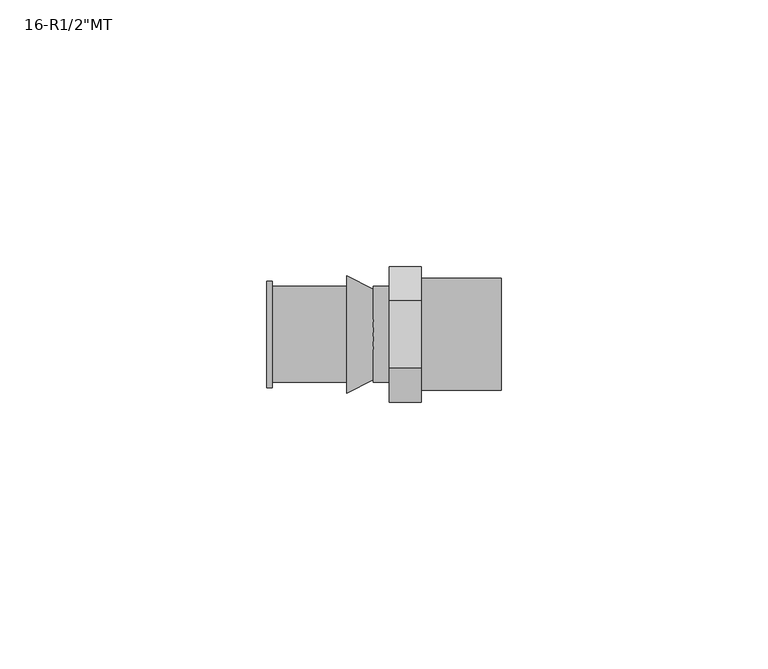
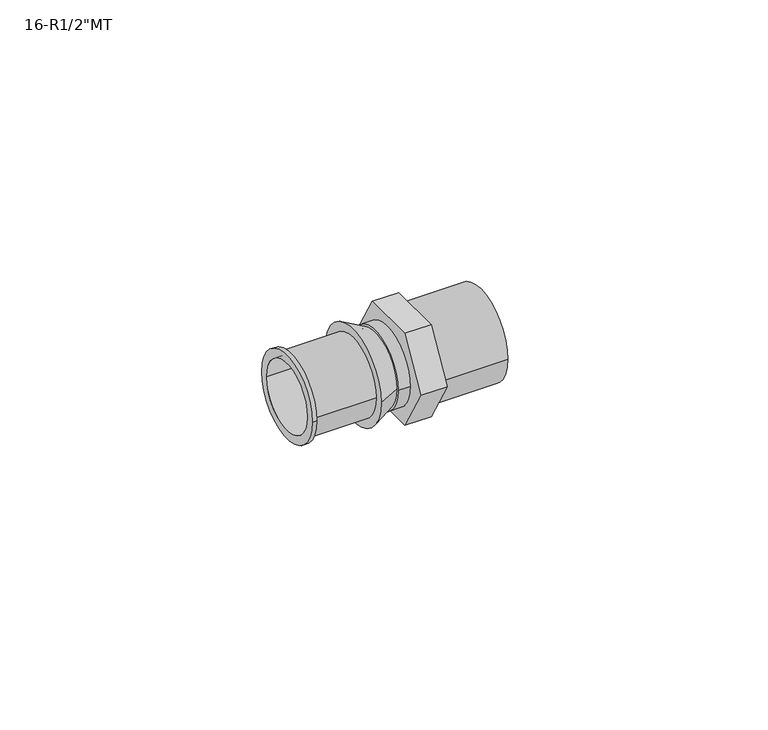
"""IFC4 building model written with IfcOpenShell, lengths in millimetres: pipe fitting geometry."""

from ifc_helpers import new_model, si_unit, point, frame, origin, origin_2d, place, context, project, spatial, polyline, circle_curve, trimmed, segment, composite_curve, outline, extrude, source, transform, mapped, element, save
from ifc_brep_helpers import plane_surface, cylinder_surface, revolved_surface, advanced_brep


def pipe_fitting_80dcb228(model_context):
    return source(origin(), model_context, "Body", "SolidModel", [
        advanced_brep(
        [(-3.0, -12.7017059, 0.0), (-3.0, -6.350853, 11.0), (-3.0, 6.350853, 11.0), (-3.0, 12.7017059, 0.0), (-3.0, 6.350853, -11.0), (-3.0, -6.350853, -11.0), (3.0, -12.7017059, 0.0), (3.0, -6.350853, -11.0), (3.0, 6.350853, -11.0), (3.0, 12.7017059, 0.0), (3.0, 6.350853, 11.0), (3.0, -6.350853, 11.0), (3.0, -10.5, 0.0), (3.0, 10.5, 0.0), (3.0, -7.5, 0.0), (3.0, 7.5, 0.0), (18.0, -10.5, 0.0), (18.0, 10.5, 0.0), (18.0, -7.5, 0.0), (18.0, 7.5, 0.0)],
        [
            (0, 1),
            (1, 2),
            (2, 3),
            (3, 4),
            (4, 5),
            (5, 0),
            (6, 7),
            (7, 8),
            (8, 9),
            (9, 10),
            (10, 11),
            (11, 6),
            (12, 13, circle_curve(frame((3.0, 0.0, 0.0), z_axis=(-1.0, 0.0, 0.0), x_axis=(0.0, 1.0, 0.0)), 10.5)),
            (13, 12, circle_curve(frame((3.0, 0.0, 0.0), z_axis=(-1.0, 0.0, 0.0), x_axis=(0.0, 1.0, 0.0)), 10.5)),
            (14, 15, circle_curve(frame((3.0, 0.0, 0.0), z_axis=(1.0, 0.0, 0.0), x_axis=(0.0, 1.0, 0.0)), 7.5)),
            (15, 14, circle_curve(frame((3.0, 0.0, 0.0), z_axis=(1.0, 0.0, 0.0), x_axis=(0.0, 1.0, 0.0)), 7.5)),
            (0, 6),
            (11, 1),
            (10, 2),
            (9, 3),
            (8, 4),
            (7, 5),
            (16, 17, circle_curve(frame((18.0, 0.0, 0.0), z_axis=(1.0, 0.0, 0.0), x_axis=(0.0, 1.0, 0.0)), 10.5)),
            (17, 16, circle_curve(frame((18.0, 0.0, 0.0), z_axis=(1.0, 0.0, 0.0), x_axis=(0.0, 1.0, 0.0)), 10.5)),
            (18, 19, circle_curve(frame((18.0, 0.0, 0.0), z_axis=(-1.0, 0.0, 0.0), x_axis=(0.0, 1.0, 0.0)), 7.5)),
            (19, 18, circle_curve(frame((18.0, 0.0, 0.0), z_axis=(-1.0, 0.0, 0.0), x_axis=(0.0, 1.0, 0.0)), 7.5)),
            (17, 13),
            (12, 16),
            (19, 15),
            (14, 18),
        ],
        [
            plane_surface(frame((-3.0, 0.0, 0.0), z_axis=(-1.0, 0.0, 0.0), x_axis=(0.0, 0.0, 1.0))),
            plane_surface(frame((3.0, 0.0, 0.0), z_axis=(1.0, 0.0, 0.0), x_axis=(0.0, 0.0, 1.0))),
            plane_surface(frame((-3.0, -12.7017059, 0.0), z_axis=(0.0, -0.8660254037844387, 0.5000000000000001), x_axis=(1.0, 0.0, 0.0))),
            plane_surface(frame((-3.0, -6.350853, 11.0), z_axis=(0.0, 0.0, 1.0), x_axis=(1.0, 0.0, 0.0))),
            plane_surface(frame((-3.0, 6.350853, 11.0), z_axis=(0.0, 0.8660254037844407, 0.49999999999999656), x_axis=(1.0, 0.0, 0.0))),
            plane_surface(frame((-3.0, 12.7017059, 0.0), z_axis=(0.0, 0.8660254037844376, -0.500000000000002), x_axis=(1.0, 0.0, 0.0))),
            plane_surface(frame((-3.0, 6.350853, -11.0), z_axis=(0.0, 0.0, -1.0), x_axis=(1.0, 0.0, 0.0))),
            plane_surface(frame((-3.0, -6.350853, -11.0), z_axis=(0.0, -0.8660254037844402, -0.49999999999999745), x_axis=(1.0, 0.0, 0.0))),
            plane_surface(frame((18.0, 0.0, 0.0), z_axis=(1.0, 0.0, 0.0), x_axis=(0.0, 0.0, 1.0))),
            cylinder_surface(frame((3.0, 0.0, 0.0), z_axis=(-1.0, 0.0, 0.0), x_axis=(0.0, 1.0, 0.0)), 10.5),
            revolved_surface(polyline([(18.0, 7.5, 0.0), (3.0, 7.5, 0.0)]), (3.0, 0.0, 0.0), (1.0, 0.0, 0.0)),
        ],
        [
            (0, [[1, 2, 3, 4, 5, 6]]),
            (1, [[7, 8, 9, 10, 11, 12], [13, 14]]),
            (1, [[15, 16]]),
            (2, [[-1, 17, -12, 18]]),
            (3, [[-2, -18, -11, 19]]),
            (4, [[-3, -19, -10, 20]]),
            (5, [[-4, -20, -9, 21]]),
            (6, [[-5, -21, -8, 22]]),
            (7, [[-6, -22, -7, -17]]),
            (8, [[23, 24], [25, 26]]),
            (9, [[-24, 27, -13, 28]]),
            (9, [[-23, -28, -14, -27]]),
            (10, [[-26, 29, -15, 30]]),
            (10, [[-25, -30, -16, -29]]),
        ],
    ),
        advanced_brep(
        [(-26.0, -10.0, 0.0), (-26.0, 10.0, 0.0), (-26.0, -8.0, 0.0), (-26.0, 8.0, 0.0), (-11.0, -9.0, 0.0), (-11.0, 9.0, 0.0), (-11.0, -8.0, 0.0), (-11.0, 8.0, 0.0), (-25.0, 9.0, 0.0), (-25.0, -9.0, 0.0), (-25.0, -10.0, 0.0), (-25.0, 10.0, 0.0)],
        [
            (0, 1, circle_curve(frame((-26.0, 0.0, 0.0), z_axis=(-1.0, 0.0, 0.0), x_axis=(0.0, 1.0, 0.0)), 10.0)),
            (1, 0, circle_curve(frame((-26.0, 0.0, 0.0), z_axis=(-1.0, 0.0, 0.0), x_axis=(0.0, 1.0, 0.0)), 10.0)),
            (2, 3, circle_curve(frame((-26.0, 0.0, 0.0), z_axis=(1.0, 0.0, 0.0), x_axis=(0.0, 1.0, 0.0)), 8.0)),
            (3, 2, circle_curve(frame((-26.0, 0.0, 0.0), z_axis=(1.0, 0.0, 0.0), x_axis=(0.0, 1.0, 0.0)), 8.0)),
            (4, 5, circle_curve(frame((-11.0, 0.0, 0.0), z_axis=(1.0, 0.0, 0.0), x_axis=(0.0, 1.0, 0.0)), 9.0)),
            (5, 4, circle_curve(frame((-11.0, 0.0, 0.0), z_axis=(1.0, 0.0, 0.0), x_axis=(0.0, 1.0, 0.0)), 9.0)),
            (6, 7, circle_curve(frame((-11.0, 0.0, 0.0), z_axis=(-1.0, 0.0, 0.0), x_axis=(0.0, 1.0, 0.0)), 8.0)),
            (7, 6, circle_curve(frame((-11.0, 0.0, 0.0), z_axis=(-1.0, 0.0, 0.0), x_axis=(0.0, 1.0, 0.0)), 8.0)),
            (2, 6),
            (7, 3),
            (5, 8),
            (8, 9, circle_curve(frame((-25.0, 0.0, 0.0), z_axis=(1.0, 0.0, 0.0), x_axis=(0.0, 1.0, 0.0)), 9.0)),
            (9, 4),
            (9, 8, circle_curve(frame((-25.0, 0.0, 0.0), z_axis=(1.0, 0.0, 0.0), x_axis=(0.0, 1.0, 0.0)), 9.0)),
            (10, 11, circle_curve(frame((-25.0, 0.0, 0.0), z_axis=(1.0, 0.0, 0.0), x_axis=(0.0, 1.0, 0.0)), 10.0)),
            (11, 10, circle_curve(frame((-25.0, 0.0, 0.0), z_axis=(1.0, 0.0, 0.0), x_axis=(0.0, 1.0, 0.0)), 10.0)),
            (0, 10),
            (11, 1),
        ],
        [
            plane_surface(frame((-26.0, 0.0, 0.0), z_axis=(-1.0, 0.0, 0.0), x_axis=(0.0, 0.0, 1.0))),
            plane_surface(frame((-11.0, 0.0, 0.0), z_axis=(1.0, 0.0, 0.0), x_axis=(0.0, 0.0, 1.0))),
            revolved_surface(polyline([(-11.0, 8.0, 0.0), (-26.0, 8.0, 0.0)]), (-26.0, 0.0, 0.0), (1.0, 0.0, 0.0)),
            cylinder_surface(frame((-26.0, 0.0, 0.0), z_axis=(-1.0, 0.0, 0.0), x_axis=(0.0, 1.0, 0.0)), 9.0),
            plane_surface(frame((-25.0, 0.0, 0.0), z_axis=(1.0, 0.0, 0.0), x_axis=(0.0, 0.0, 1.0))),
            cylinder_surface(frame((-26.0, 0.0, 0.0), z_axis=(-1.0, 0.0, 0.0), x_axis=(0.0, 1.0, 0.0)), 10.0),
        ],
        [
            (0, [[1, 2], [3, 4]]),
            (1, [[5, 6], [7, 8]]),
            (2, [[-3, 9, -8, 10]]),
            (2, [[-4, -10, -7, -9]]),
            (3, [[-6, 11, 12, 13]]),
            (3, [[-5, -13, 14, -11]]),
            (4, [[15, 16], [-12, -14]]),
            (5, [[-1, 17, -16, 18]]),
            (5, [[-2, -18, -15, -17]]),
        ],
    ),
        advanced_brep(
        [(-6.0, -8.5, 0.0), (-6.0, 8.5, 0.0), (-6.0, 8.0, 0.0), (-6.0, -8.0, 0.0), (-11.0, -11.0, 0.0), (-11.0, 11.0, 0.0), (-11.0, -8.0, 0.0), (-11.0, 8.0, 0.0)],
        [
            (0, 1, circle_curve(frame((-6.0, 0.0, 0.0), z_axis=(1.0, 0.0, 0.0), x_axis=(0.0, -1.0, 0.0)), 8.5)),
            (1, 0, circle_curve(frame((-6.0, 0.0, 0.0), z_axis=(1.0, 0.0, 0.0), x_axis=(0.0, 1.0, 0.0)), 8.5)),
            (2, 3, circle_curve(frame((-6.0, 0.0, 0.0), z_axis=(-1.0, 0.0, 0.0), x_axis=(0.0, 1.0, 0.0)), 8.0)),
            (3, 2, circle_curve(frame((-6.0, 0.0, 0.0), z_axis=(-1.0, 0.0, 0.0), x_axis=(0.0, 1.0, 0.0)), 8.0)),
            (4, 5, circle_curve(frame((-11.0, 0.0, 0.0), z_axis=(-1.0, 0.0, 0.0), x_axis=(0.0, 1.0, 0.0)), 11.0)),
            (5, 4, circle_curve(frame((-11.0, 0.0, 0.0), z_axis=(-1.0, 0.0, 0.0), x_axis=(0.0, -1.0, 0.0)), 11.0)),
            (6, 7, circle_curve(frame((-11.0, 0.0, 0.0), z_axis=(1.0, 0.0, 0.0), x_axis=(0.0, 1.0, 0.0)), 8.0)),
            (7, 6, circle_curve(frame((-11.0, 0.0, 0.0), z_axis=(1.0, 0.0, 0.0), x_axis=(0.0, 1.0, 0.0)), 8.0)),
            (0, 4),
            (5, 1),
            (2, 7),
            (6, 3),
        ],
        [
            plane_surface(frame((-6.0, 0.0, 0.0), z_axis=(1.0, 0.0, 0.0), x_axis=(0.0, 0.0, -1.0))),
            plane_surface(frame((-11.0, 0.0, 0.0), z_axis=(-1.0, 0.0, 0.0), x_axis=(0.0, 0.0, -1.0))),
            revolved_surface(polyline([(-6.0, -8.5, 0.0), (-11.0, -11.0, 0.0)]), (11.0, 0.0, 0.0), (-1.0, 0.0, 0.0)),
            revolved_surface(polyline([(-6.0, 8.5, 0.0), (-11.0, 11.0, 0.0)]), (11.0, 0.0, 0.0), (-1.0, 0.0, 0.0)),
            revolved_surface(polyline([(-6.0, 8.0, 0.0), (-11.0, 8.0, 0.0)]), (-11.0, 0.0, 0.0), (1.0, 0.0, 0.0)),
        ],
        [
            (0, [[1, 2], [3, 4]]),
            (1, [[5, 6], [7, 8]]),
            (2, [[-1, 9, -6, 10]]),
            (3, [[-2, -10, -5, -9]]),
            (4, [[11, -7, 12, -3]]),
            (4, [[-11, -4, -12, -8]]),
        ],
    ),
        extrude(outline(composite_curve([segment(trimmed(circle_curve(origin_2d(), 9.0), [point((-9.0, 0.0))], [point((9.0, 0.0))], False, "CARTESIAN"), True, "CONTINUOUS"), segment(trimmed(circle_curve(origin_2d(), 9.0), [point((9.0, 0.0))], [point((-9.0, 0.0))], False, "CARTESIAN"), True, "CONTINUOUS")], self_intersect=False)), frame((-6.0, 0.0, 0.0), z_axis=(1.0, 0.0, 0.0), x_axis=(0.0, 1.0, 0.0)), (0.0, 0.0, 1.0), 3.0),
    ])


if __name__ == "__main__":
    model = new_model("IFC4")
    model_context = context("Model", 3, world=origin())
    ifc_project = project(units=[si_unit("LENGTHUNIT", "METRE", prefix="MILLI")], contexts=[model_context])
    site = spatial("IfcSite", under=ifc_project)
    building = spatial("IfcBuilding", under=site)
    placement = place(None, origin())
    pipe_fitting_shape = pipe_fitting_80dcb228(model_context)
    element("IfcPipeFitting", 1, ObjectType="SuperPipe_AdapterMT : 16-R1/2\"MT", at=placement, inside=building, context=model_context, shape_type="MappedRepresentation", body=[
        mapped(pipe_fitting_shape, transform((0.0, 0.0, 0.0), x_axis=(1.0, 0.0, 0.0), y_axis=(0.0, 1.0, 0.0), z_axis=(0.0, 0.0, 1.0))),
    ])
    save(model, "model.ifc")
